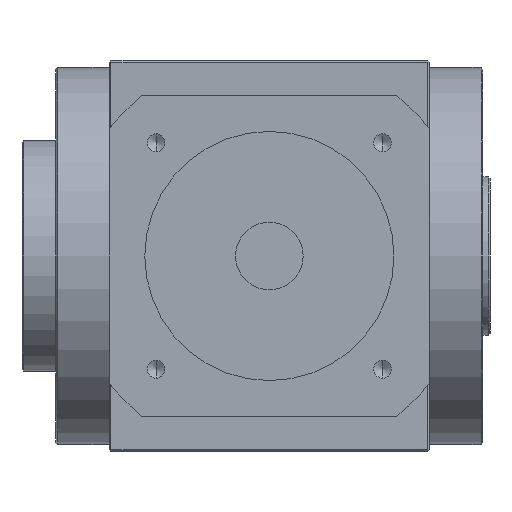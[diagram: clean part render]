
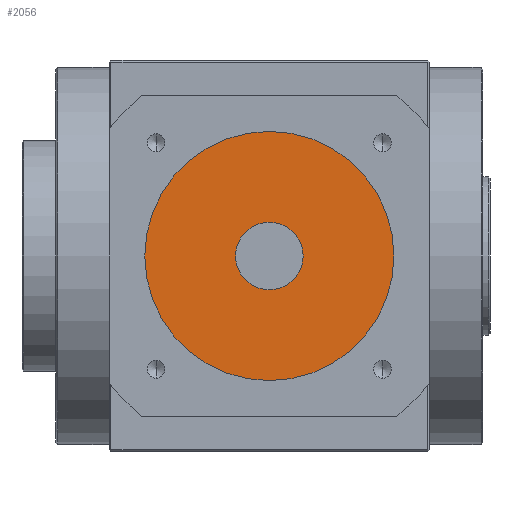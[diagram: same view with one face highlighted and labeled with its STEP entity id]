
A CAD part, front view. The second image highlights one B-rep face of the part: STEP entity #2056.
In plain terms, the highlighted planar face has unit normal (0, -1, 0).
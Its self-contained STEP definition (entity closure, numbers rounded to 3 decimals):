
#190 = CARTESIAN_POINT ( 'NONE',  ( 0., -189., 0. ) ) ;
#713 = VERTEX_POINT ( 'NONE', #3752 ) ;
#881 = VERTEX_POINT ( 'NONE', #8633 ) ;
#1010 = DIRECTION ( 'NONE',  ( 0., 0., -1. ) ) ;
#1626 = CARTESIAN_POINT ( 'NONE',  ( 0., -189., 0. ) ) ;
#2017 = CARTESIAN_POINT ( 'NONE',  ( 0., -189., 0. ) ) ;
#2046 = AXIS2_PLACEMENT_3D ( 'NONE', #4687, #7135, #2264 ) ;
#2056 = ADVANCED_FACE ( 'NONE', ( #10222, #3721 ), #6311, .T. ) ;
#2264 = DIRECTION ( 'NONE',  ( 0., 0., -1. ) ) ;
#2349 = EDGE_LOOP ( 'NONE', ( #6657, #4913 ) ) ;
#2367 = EDGE_CURVE ( 'NONE', #713, #5623, #9457, .T. ) ;
#2450 = DIRECTION ( 'NONE',  ( 0., 0., -1. ) ) ;
#2672 = CARTESIAN_POINT ( 'NONE',  ( 0., -189., 0. ) ) ;
#2767 = CIRCLE ( 'NONE', #5040, 35. ) ;
#2846 = DIRECTION ( 'NONE',  ( 0., 0., -1. ) ) ;
#3255 = ORIENTED_EDGE ( 'NONE', *, *, #8283, .T. ) ;
#3490 = DIRECTION ( 'NONE',  ( 0., 0., -1. ) ) ;
#3721 = FACE_OUTER_BOUND ( 'NONE', #2349, .T. ) ;
#3746 = AXIS2_PLACEMENT_3D ( 'NONE', #2017, #7713, #2846 ) ;
#3752 = CARTESIAN_POINT ( 'NONE',  ( 0., -189., 9.5 ) ) ;
#4584 = AXIS2_PLACEMENT_3D ( 'NONE', #190, #5855, #1010 ) ;
#4687 = CARTESIAN_POINT ( 'NONE',  ( 0., -189., 0. ) ) ;
#4782 = CIRCLE ( 'NONE', #3746, 35. ) ;
#4913 = ORIENTED_EDGE ( 'NONE', *, *, #5512, .T. ) ;
#5040 = AXIS2_PLACEMENT_3D ( 'NONE', #1626, #7329, #2450 ) ;
#5512 = EDGE_CURVE ( 'NONE', #9924, #881, #2767, .T. ) ;
#5535 = EDGE_LOOP ( 'NONE', ( #3255, #7672 ) ) ;
#5623 = VERTEX_POINT ( 'NONE', #5920 ) ;
#5721 = EDGE_CURVE ( 'NONE', #881, #9924, #4782, .T. ) ;
#5855 = DIRECTION ( 'NONE',  ( 0., 1., 0. ) ) ;
#5920 = CARTESIAN_POINT ( 'NONE',  ( 0., -189., -9.5 ) ) ;
#6311 = PLANE ( 'NONE',  #2046 ) ;
#6351 = CARTESIAN_POINT ( 'NONE',  ( 0., -189., 35. ) ) ;
#6657 = ORIENTED_EDGE ( 'NONE', *, *, #5721, .T. ) ;
#7135 = DIRECTION ( 'NONE',  ( 0., -1., 0. ) ) ;
#7329 = DIRECTION ( 'NONE',  ( 0., -1., 0. ) ) ;
#7672 = ORIENTED_EDGE ( 'NONE', *, *, #2367, .T. ) ;
#7713 = DIRECTION ( 'NONE',  ( 0., -1., 0. ) ) ;
#8283 = EDGE_CURVE ( 'NONE', #5623, #713, #10099, .T. ) ;
#8352 = DIRECTION ( 'NONE',  ( 0., 1., 0. ) ) ;
#8633 = CARTESIAN_POINT ( 'NONE',  ( 0., -189., -35. ) ) ;
#9457 = CIRCLE ( 'NONE', #10256, 9.5 ) ;
#9924 = VERTEX_POINT ( 'NONE', #6351 ) ;
#10099 = CIRCLE ( 'NONE', #4584, 9.5 ) ;
#10222 = FACE_BOUND ( 'NONE', #5535, .T. ) ;
#10256 = AXIS2_PLACEMENT_3D ( 'NONE', #2672, #8352, #3490 ) ;
